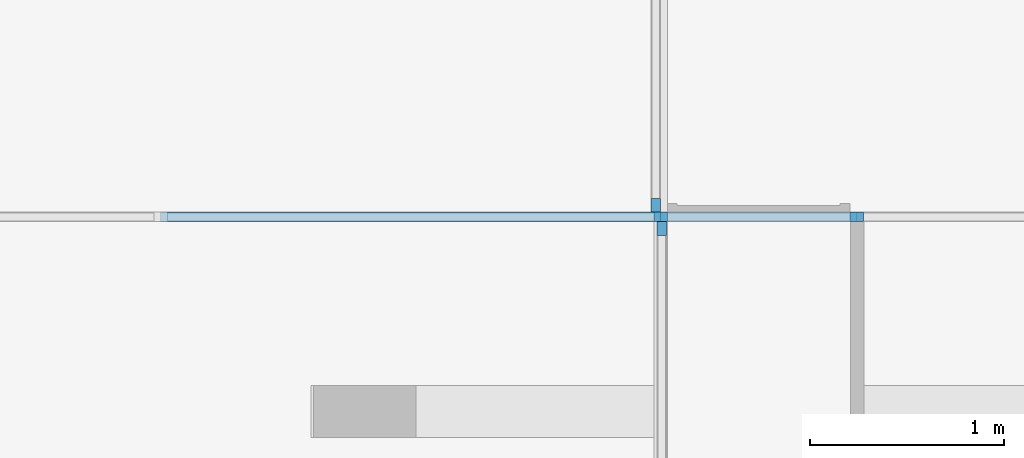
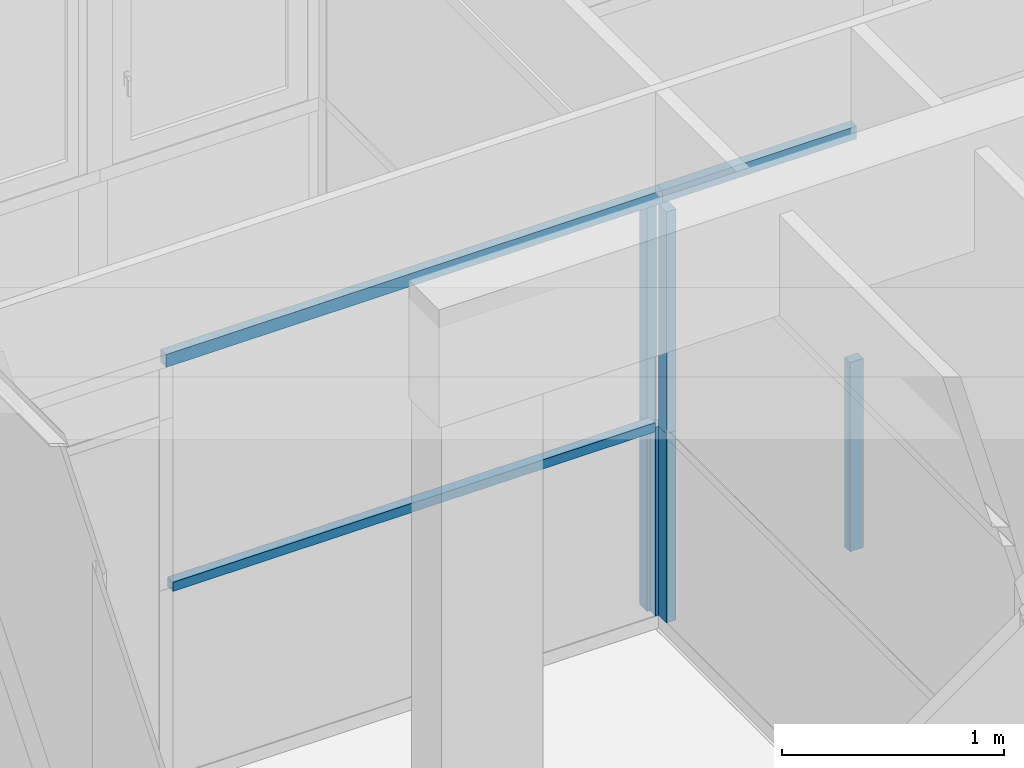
# One storey, part 8 of 49: 9 members, 3 elements without a shape of their own.
"""IFC4 building model written with IfcOpenShell, lengths in metres."""

from ifc_helpers import new_model, entity, si_unit, converted_unit, derived_unit, direction, frame, origin, place, context, subcontext, project, spatial, indexed_curve, outline, extrude, source, transform, mapped, material, type_object, type_shapes, element, aggregate, save


model = new_model("IFC4")

# Units and contexts
model_context = context("Model", 3, precision=1e-05, world=origin(), true_north=direction((6.12303176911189e-17, 1.0)))
body_context = subcontext(model_context, "Body", "Model", "MODEL_VIEW")
ifc_project = project(units=[si_unit("LENGTHUNIT", "METRE"), si_unit("AREAUNIT", "SQUARE_METRE"), si_unit("VOLUMEUNIT", "CUBIC_METRE"), converted_unit("PLANEANGLEUNIT", "DEGREE", entity("IfcRatioMeasure", 0.0174532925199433), si_unit("PLANEANGLEUNIT", "RADIAN"), dimensions=[0, 0, 0, 0, 0, 0, 0]), si_unit("MASSUNIT", "GRAM", prefix="KILO"), derived_unit("MASSDENSITYUNIT", [(si_unit("MASSUNIT", "GRAM", prefix="KILO"), 1), (si_unit("LENGTHUNIT", "METRE"), -3)]), derived_unit("MOMENTOFINERTIAUNIT", [(si_unit("LENGTHUNIT", "METRE"), 4)]), si_unit("TIMEUNIT", "SECOND"), si_unit("FREQUENCYUNIT", "HERTZ"), si_unit("THERMODYNAMICTEMPERATUREUNIT", "DEGREE_CELSIUS"), derived_unit("THERMALTRANSMITTANCEUNIT", [(si_unit("MASSUNIT", "GRAM", prefix="KILO"), 1), (si_unit("THERMODYNAMICTEMPERATUREUNIT", "KELVIN"), -1), (si_unit("TIMEUNIT", "SECOND"), -3)]), derived_unit("VOLUMETRICFLOWRATEUNIT", [(si_unit("LENGTHUNIT", "METRE"), 3), (si_unit("TIMEUNIT", "SECOND"), -1)]), si_unit("ELECTRICCURRENTUNIT", "AMPERE"), si_unit("ELECTRICVOLTAGEUNIT", "VOLT"), si_unit("POWERUNIT", "WATT"), si_unit("FORCEUNIT", "NEWTON", prefix="KILO"), si_unit("ILLUMINANCEUNIT", "LUX"), si_unit("LUMINOUSFLUXUNIT", "LUMEN"), si_unit("LUMINOUSINTENSITYUNIT", "CANDELA"), derived_unit("USERDEFINED", [(si_unit("MASSUNIT", "GRAM", prefix="KILO"), -1), (si_unit("LENGTHUNIT", "METRE"), -2), (si_unit("TIMEUNIT", "SECOND"), 3), (si_unit("LUMINOUSFLUXUNIT", "LUMEN"), 1)]), derived_unit("LINEARVELOCITYUNIT", [(si_unit("LENGTHUNIT", "METRE"), 1), (si_unit("TIMEUNIT", "SECOND"), -1)]), si_unit("PRESSUREUNIT", "PASCAL"), derived_unit("USERDEFINED", [(si_unit("LENGTHUNIT", "METRE"), -2), (si_unit("MASSUNIT", "GRAM", prefix="KILO"), 1), (si_unit("TIMEUNIT", "SECOND"), -2)]), derived_unit("LINEARFORCEUNIT", [(si_unit("MASSUNIT", "GRAM", prefix="KILO"), 1), (si_unit("LENGTHUNIT", "METRE"), 1), (si_unit("TIMEUNIT", "SECOND"), -2), (si_unit("LENGTHUNIT", "METRE"), -1)]), derived_unit("PLANARFORCEUNIT", [(si_unit("MASSUNIT", "GRAM", prefix="KILO"), 1), (si_unit("LENGTHUNIT", "METRE"), 1), (si_unit("TIMEUNIT", "SECOND"), -2), (si_unit("LENGTHUNIT", "METRE"), -2)])], contexts=[model_context])

# Site, building, storey
site_placement = place(None, origin())
site = spatial("IfcSite", under=ifc_project, at=site_placement, Name="Default", CompositionType="ELEMENT")
building_placement = place(site_placement, origin())
building = spatial("IfcBuilding", under=site, at=building_placement, Name="HOTEL CONSULAIRE BOULOGNE SUR MER", CompositionType="ELEMENT")
storey_placement = place(building_placement, frame((0.0, 0.0, 6.81974152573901)))
storey = spatial("IfcBuildingStorey", under=building, at=storey_placement, Name="Niveau 2", CompositionType="ELEMENT", Elevation=6.81974152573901)

# Curtain wall, members
curtain_wall_type = type_object("IfcCurtainWallType", Name="Mur-rideau:Simple panneau", PredefinedType="NOTDEFINED")
curtain_wall_1_placement = place(storey_placement, frame((0.0, 0.0, -6.81974152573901)))
curtain_wall_1 = element("IfcCurtainWall", 1, at=curtain_wall_1_placement, inside=storey, type_object=curtain_wall_type, Name="Mur-rideau:Simple panneau", ObjectType="Mur-rideau:Simple panneau", PredefinedType="NOTDEFINED")
ifc_material = material(Name="PVC - Blanc", Category="Plastique")
member_type_1 = type_object("IfcMemberType", Name="Meneau rectangulaire:50 x 35", PredefinedType="MULLION", material=ifc_material)
shared_shape_1 = source(origin(), body_context, "Body", "SweptSolid", [
    extrude(outline(indexed_curve([(-0.025, -0.035), (0.025, -0.035), (0.025, 0.035), (-0.025, 0.035), (-0.025, -0.035)], self_intersect=False)), frame((0.0, -0.025, -1.041), z_axis=(0.0, 0.0, 1.0), x_axis=(0.0, -1.0, 0.0)), (0.0, 0.0, 1.0), 1.041),
])
type_shapes(member_type_1, [shared_shape_1])
member_1_placement = place(storey_placement, frame((15.696075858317, -14.6024237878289, 0.0700000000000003), z_axis=(0.0, 0.0, -1.0), x_axis=(-1.0, 0.0, 0.0)))
member_1 = element("IfcMember", 2, at=member_1_placement, type_object=member_type_1, material=ifc_material, Name="Meneau rectangulaire:50 x 35", ObjectType="Meneau rectangulaire:50 x 35", PredefinedType="MULLION", context=body_context, shape_type="MappedRepresentation", body=[
    mapped(shared_shape_1, transform((0.0, 0.0, 0.0), scale=1.0)),
])
member_2_placement = place(storey_placement, frame((16.708075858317, -14.6024237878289, 0.0700000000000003), z_axis=(0.0, 0.0, -1.0), x_axis=(-1.0, 0.0, 0.0)))
member_2 = element("IfcMember", 3, at=member_2_placement, type_object=member_type_1, material=ifc_material, Name="Meneau rectangulaire:50 x 35", ObjectType="Meneau rectangulaire:50 x 35", PredefinedType="MULLION", context=body_context, shape_type="MappedRepresentation", body=[
    mapped(shared_shape_1, transform((0.0, 0.0, 0.0), scale=1.0)),
])
member_type_2 = type_object("IfcMemberType", Name="Meneau rectangulaire:50 x 35", PredefinedType="MULLION", material=ifc_material)
shared_shape_2 = source(origin(), body_context, "Body", "SweptSolid", [
    extrude(outline(indexed_curve([(-0.025, -0.035), (0.025, -0.035), (0.025, 0.035), (-0.025, 0.035), (-0.025, -0.035)], self_intersect=False)), frame((-0.035, -0.025, -1.012), z_axis=(0.0, 0.0, 1.0), x_axis=(0.0, -1.0, 0.0)), (0.0, 0.0, 1.0), 1.012),
])
type_shapes(member_type_2, [shared_shape_2])
member_3_placement = place(storey_placement, frame((15.696075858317, -14.6024237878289, 2.402), z_axis=(-1.0, 0.0, 0.0), x_axis=(0.0, 0.0, 1.0)))
member_3 = element("IfcMember", 4, at=member_3_placement, type_object=member_type_2, material=ifc_material, Name="Meneau rectangulaire:50 x 35", ObjectType="Meneau rectangulaire:50 x 35", PredefinedType="MULLION", context=body_context, shape_type="MappedRepresentation", body=[
    mapped(shared_shape_2, transform((0.0, 0.0, 0.0), scale=1.0)),
])
member_type_3 = type_object("IfcMemberType", Name="Meneau rectangulaire:50 x 35", PredefinedType="MULLION", material=ifc_material)
shared_shape_3 = source(origin(), body_context, "Body", "SweptSolid", [
    extrude(outline(indexed_curve([(-0.025, -0.035), (0.025, -0.035), (0.025, 0.035), (-0.025, 0.035), (-0.025, -0.035)], self_intersect=False)), frame((-0.035, -0.025, -2.583), z_axis=(0.0, 0.0, 1.0), x_axis=(0.0, -1.0, 0.0)), (0.0, 0.0, 1.0), 2.583),
])
type_shapes(member_type_3, [shared_shape_3])
member_4_placement = place(storey_placement, frame((13.113075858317, -14.6024237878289, 2.402), z_axis=(-1.0, 0.0, 0.0), x_axis=(0.0, 0.0, 1.0)))
member_4 = element("IfcMember", 5, at=member_4_placement, type_object=member_type_3, material=ifc_material, Name="Meneau rectangulaire:50 x 35", ObjectType="Meneau rectangulaire:50 x 35", PredefinedType="MULLION", context=body_context, shape_type="MappedRepresentation", body=[
    mapped(shared_shape_3, transform((0.0, 0.0, 0.0), scale=1.0)),
])
member_type_4 = type_object("IfcMemberType", Name="Meneau rectangulaire:50 x 25mm", PredefinedType="MULLION", material=ifc_material)
shared_shape_4 = source(origin(), body_context, "Body", "SweptSolid", [
    extrude(outline(indexed_curve([(-0.025, -0.025), (0.025, -0.025), (0.025, 0.025), (-0.025, 0.025), (-0.025, -0.025)], self_intersect=False)), frame((0.0, -0.025, -2.513), z_axis=(0.0, 0.0, 1.0), x_axis=(0.0, -1.0, 0.0)), (0.0, 0.0, 1.0), 2.513),
])
type_shapes(member_type_4, [shared_shape_4])
member_5_placement = place(storey_placement, frame((13.148075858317, -14.6024237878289, 1.111), z_axis=(-1.0, 0.0, 0.0), x_axis=(0.0, 0.0, 1.0)))
member_5 = element("IfcMember", 6, at=member_5_placement, type_object=member_type_4, material=ifc_material, Name="Meneau rectangulaire:50 x 25mm", ObjectType="Meneau rectangulaire:50 x 25mm", PredefinedType="MULLION", context=body_context, shape_type="MappedRepresentation", body=[
    mapped(shared_shape_4, transform((0.0, 0.0, 0.0), scale=1.0)),
])
aggregate(curtain_wall_1, [member_3, member_4, member_1, member_2, member_5])

# Curtain wall, member
curtain_wall_2_placement = place(storey_placement, frame((0.0, 0.0, -6.81974152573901)))
curtain_wall_2 = element("IfcCurtainWall", 7, at=curtain_wall_2_placement, inside=storey, type_object=curtain_wall_type, Name="Mur-rideau:Simple panneau", ObjectType="Mur-rideau:Simple panneau", PredefinedType="NOTDEFINED")
member_type_5 = type_object("IfcMemberType", Name="Meneau rectangulaire:50 x 35", PredefinedType="MULLION", material=ifc_material)
shared_shape_5 = source(origin(), body_context, "Body", "SweptSolid", [
    extrude(outline(indexed_curve([(-0.025, -0.035), (0.025, -0.035), (0.025, 0.035), (-0.025, 0.035), (-0.025, -0.035)], self_intersect=False)), frame((-0.035, -0.025, -1.221), z_axis=(0.0, 0.0, 1.0), x_axis=(0.0, -1.0, 0.0)), (0.0, 0.0, 1.0), 1.221),
])
type_shapes(member_type_5, [shared_shape_5])
member_6_placement = place(storey_placement, frame((15.696075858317, -14.6014237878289, 2.332), z_axis=(0.0, 0.0, 1.0), x_axis=(0.0, -1.0, 0.0)))
member_6 = element("IfcMember", 8, at=member_6_placement, type_object=member_type_5, material=ifc_material, Name="Meneau rectangulaire:50 x 35", ObjectType="Meneau rectangulaire:50 x 35", PredefinedType="MULLION", context=body_context, shape_type="MappedRepresentation", body=[
    mapped(shared_shape_5, transform((0.0, 0.0, 0.0), scale=1.0)),
])

curtain_wall_3_placement = place(storey_placement, frame((0.0, 0.0, -6.81974152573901)))
curtain_wall_3 = element("IfcCurtainWall", 9, at=curtain_wall_3_placement, inside=storey, type_object=curtain_wall_type, Name="Mur-rideau:Simple panneau", ObjectType="Mur-rideau:Simple panneau", PredefinedType="NOTDEFINED")
member_type_6 = type_object("IfcMemberType", Name="Meneau rectangulaire:50 x 35", PredefinedType="MULLION", material=ifc_material)
shared_shape_6 = source(origin(), body_context, "Body", "SweptSolid", [
    extrude(outline(indexed_curve([(-0.025, -0.035), (0.025, -0.035), (0.025, 0.035), (-0.025, 0.035), (-0.025, -0.035)], self_intersect=False)), frame((-0.035, -0.025, -1.041), z_axis=(0.0, 0.0, 1.0), x_axis=(0.0, -1.0, 0.0)), (0.0, 0.0, 1.0), 1.041),
])
type_shapes(member_type_6, [shared_shape_6])
member_7_placement = place(storey_placement, frame((15.7270339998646, -14.6524237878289, 0.0700000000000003), z_axis=(0.0, 0.0, -1.0), x_axis=(0.0, 1.0, 0.0)))
member_7 = element("IfcMember", 10, at=member_7_placement, type_object=member_type_6, material=ifc_material, Name="Meneau rectangulaire:50 x 35", ObjectType="Meneau rectangulaire:50 x 35", PredefinedType="MULLION", context=body_context, shape_type="MappedRepresentation", body=[
    mapped(shared_shape_6, transform((0.0, 0.0, 0.0), scale=1.0)),
])

# Member
member_type_7 = type_object("IfcMemberType", Name="Meneau rectangulaire:50 x 35", PredefinedType="MULLION", material=ifc_material)
shared_shape_7 = source(origin(), body_context, "Body", "SweptSolid", [
    extrude(outline(indexed_curve([(-0.025, -0.035), (0.025, -0.035), (0.025, 0.035), (-0.025, 0.035), (-0.025, -0.035)], self_intersect=False)), frame((-0.035, -0.025, -1.041), z_axis=(0.0, 0.0, 1.0), x_axis=(0.0, -1.0, 0.0)), (0.0, 0.0, 1.0), 1.041),
])
type_shapes(member_type_7, [shared_shape_7])
member_8_placement = place(storey_placement, frame((15.696075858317, -14.6014237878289, 1.111), z_axis=(0.0, 0.0, 1.0), x_axis=(0.0, -1.0, 0.0)))
member_8 = element("IfcMember", 11, at=member_8_placement, type_object=member_type_7, material=ifc_material, Name="Meneau rectangulaire:50 x 35", ObjectType="Meneau rectangulaire:50 x 35", PredefinedType="MULLION", context=body_context, shape_type="MappedRepresentation", body=[
    mapped(shared_shape_7, transform((0.0, 0.0, 0.0), scale=1.0)),
])

aggregate(curtain_wall_2, [member_6, member_8])

member_type_8 = type_object("IfcMemberType", Name="Meneau rectangulaire:50 x 35", PredefinedType="MULLION", material=ifc_material)
shared_shape_8 = source(origin(), body_context, "Body", "SweptSolid", [
    extrude(outline(indexed_curve([(-0.025, -0.035), (0.025, -0.035), (0.025, 0.035), (-0.025, 0.035), (-0.025, -0.035)], self_intersect=False)), frame((-0.035, -0.025, -1.221), z_axis=(0.0, 0.0, 1.0), x_axis=(0.0, -1.0, 0.0)), (0.0, 0.0, 1.0), 1.221),
])
type_shapes(member_type_8, [shared_shape_8])
member_9_placement = place(storey_placement, frame((15.7270339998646, -14.6524237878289, 1.111), z_axis=(0.0, 0.0, -1.0), x_axis=(0.0, 1.0, 0.0)))
member_9 = element("IfcMember", 12, at=member_9_placement, type_object=member_type_8, material=ifc_material, Name="Meneau rectangulaire:50 x 35", ObjectType="Meneau rectangulaire:50 x 35", PredefinedType="MULLION", context=body_context, shape_type="MappedRepresentation", body=[
    mapped(shared_shape_8, transform((0.0, 0.0, 0.0), scale=1.0)),
])

aggregate(curtain_wall_3, [member_7, member_9])

save(model, "model.ifc")
